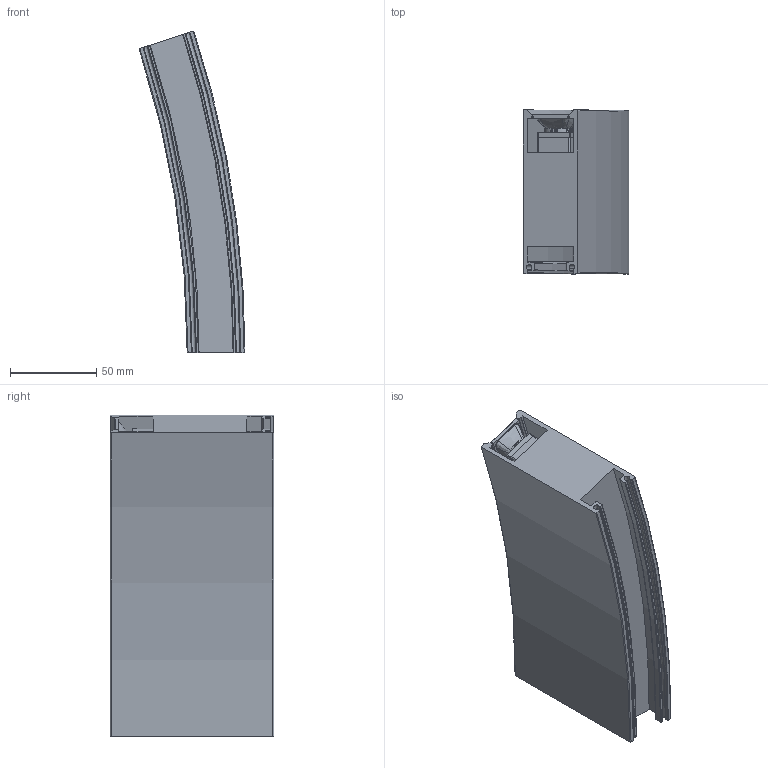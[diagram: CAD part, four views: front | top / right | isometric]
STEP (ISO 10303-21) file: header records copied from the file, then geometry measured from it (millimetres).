
FILE_DESCRIPTION(/* description */ (''),/* implementation_level */ '2;1');
FILE_NAME(/* name */ 'Evelo S R600 Optics Assembly.stp',/* time_stamp */ '2024-09-20T17:02:15+10:00',/* author */ ('Mlight Projects'),/* organization */ (''),/* preprocessor_version */ 'ST-DEVELOPER v20',/* originating_system */ 'Autodesk Inventor 2024',/* authorisation */ '');
FILE_SCHEMA (('AUTOMOTIVE_DESIGN { 1 0 10303 214 3 1 1 }'));
Length unit declared in the file: millimetre
Products named in the file (3): Evelo S R600 Optics Assembly; Body R200; Admi1D06weno
Assembly tree (2 placements, depth 2):
  Evelo S R600 Optics Assembly
    Body R200
    Admi1D06weno
Bounding box: 61.61 x 95.1 x 187.2 mm (x, y, z)
Volume: 423764 mm3; surface area: 111281.6 mm2
Topology: 4 solids, 4 shells, 1555 faces, 4223 edges, 2732 vertices
Faces by surface type: bspline 787, plane 400, cylinder 172, cone 159, torus 37
Full cylindrical faces by diameter (mm): 3.5 x3, 10.5 x3, 13.374 x6
Entity records: 74829 total; most frequent: CARTESIAN_POINT 38335, ORIENTED_EDGE 8458, DIRECTION 5898, EDGE_CURVE 4229, VERTEX_POINT 2744, AXIS2_PLACEMENT_3D 2385, EDGE_LOOP 1675, FACE_OUTER_BOUND 1555
